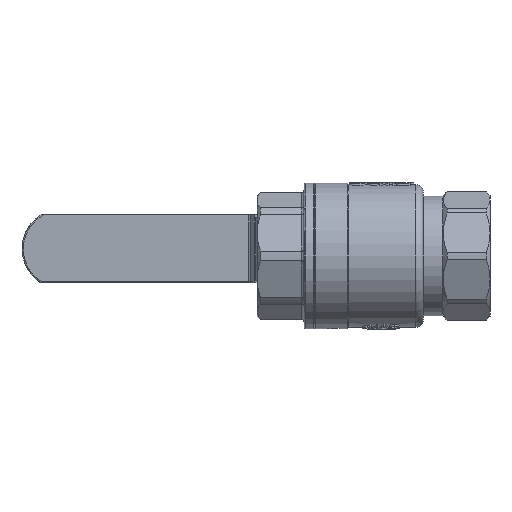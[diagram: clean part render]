
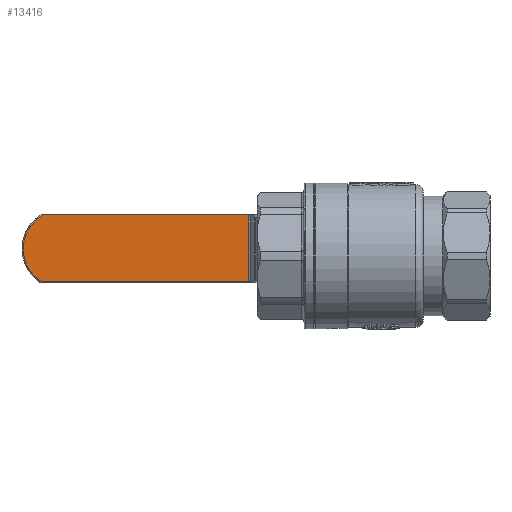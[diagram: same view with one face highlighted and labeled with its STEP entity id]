
A CAD part, front view. The second image highlights one B-rep face of the part: STEP entity #13416.
In plain terms, the highlighted planar face has unit normal (0, -1, 0).
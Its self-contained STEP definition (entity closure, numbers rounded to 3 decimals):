
#8223 = VERTEX_POINT ( 'NONE', #27497 ) ;
#8678 = VECTOR ( 'NONE', #101137, 1000. ) ;
#13416 = ADVANCED_FACE ( 'NONE', ( #53397 ), #45285, .F. ) ;
#16718 = DIRECTION ( 'NONE',  ( 1., 0., 0. ) ) ;
#18954 = VERTEX_POINT ( 'NONE', #25904 ) ;
#23590 = EDGE_LOOP ( 'NONE', ( #74211, #60302, #83338, #74210 ) ) ;
#23969 = CARTESIAN_POINT ( 'NONE',  ( 49.971, 20.5, 12.65 ) ) ;
#25904 = CARTESIAN_POINT ( 'NONE',  ( 132.344, 20.5, -13.65 ) ) ;
#27497 = CARTESIAN_POINT ( 'NONE',  ( 49.971, 20.5, 13.15 ) ) ;
#35094 = CARTESIAN_POINT ( 'NONE',  ( 133.205, 20.5, 13.15 ) ) ;
#38144 = LINE ( 'NONE', #71890, #113989 ) ;
#39512 = DIRECTION ( 'NONE',  ( -1., 0., 0. ) ) ;
#40922 = LINE ( 'NONE', #65012, #63681 ) ;
#45285 = PLANE ( 'NONE',  #48344 ) ;
#46551 = DIRECTION ( 'NONE',  ( 0., 0., 1. ) ) ;
#48344 = AXIS2_PLACEMENT_3D ( 'NONE', #113181, #104232, #46551 ) ;
#53397 = FACE_OUTER_BOUND ( 'NONE', #23590, .T. ) ;
#57318 = EDGE_CURVE ( 'NONE', #18954, #77202, #117249, .T. ) ;
#60302 = ORIENTED_EDGE ( 'NONE', *, *, #57318, .T. ) ;
#63681 = VECTOR ( 'NONE', #39512, 1000. ) ;
#65012 = CARTESIAN_POINT ( 'NONE',  ( 49.971, 20.5, 13.15 ) ) ;
#66811 = CARTESIAN_POINT ( 'NONE',  ( 125., 20.5, 0. ) ) ;
#69065 = VERTEX_POINT ( 'NONE', #96461 ) ;
#71890 = CARTESIAN_POINT ( 'NONE',  ( 49.1, 20.5, -13.65 ) ) ;
#73996 = EDGE_CURVE ( 'NONE', #8223, #69065, #93601, .T. ) ;
#74210 = ORIENTED_EDGE ( 'NONE', *, *, #73996, .T. ) ;
#74211 = ORIENTED_EDGE ( 'NONE', *, *, #108351, .T. ) ;
#77202 = VERTEX_POINT ( 'NONE', #35094 ) ;
#83338 = ORIENTED_EDGE ( 'NONE', *, *, #83647, .T. ) ;
#83647 = EDGE_CURVE ( 'NONE', #77202, #8223, #40922, .T. ) ;
#89551 = DIRECTION ( 'NONE',  ( 0., 0., 1. ) ) ;
#91828 = AXIS2_PLACEMENT_3D ( 'NONE', #66811, #100197, #89551 ) ;
#93601 = LINE ( 'NONE', #23969, #8678 ) ;
#96461 = CARTESIAN_POINT ( 'NONE',  ( 49.971, 20.5, -13.65 ) ) ;
#100197 = DIRECTION ( 'NONE',  ( 0., -1., 0. ) ) ;
#101137 = DIRECTION ( 'NONE',  ( 0., 0., -1. ) ) ;
#104232 = DIRECTION ( 'NONE',  ( 0., 1., 0. ) ) ;
#108351 = EDGE_CURVE ( 'NONE', #69065, #18954, #38144, .T. ) ;
#113181 = CARTESIAN_POINT ( 'NONE',  ( 49.1, 20.5, 12.65 ) ) ;
#113989 = VECTOR ( 'NONE', #16718, 1000. ) ;
#117249 = CIRCLE ( 'NONE', #91828, 15.5 ) ;
